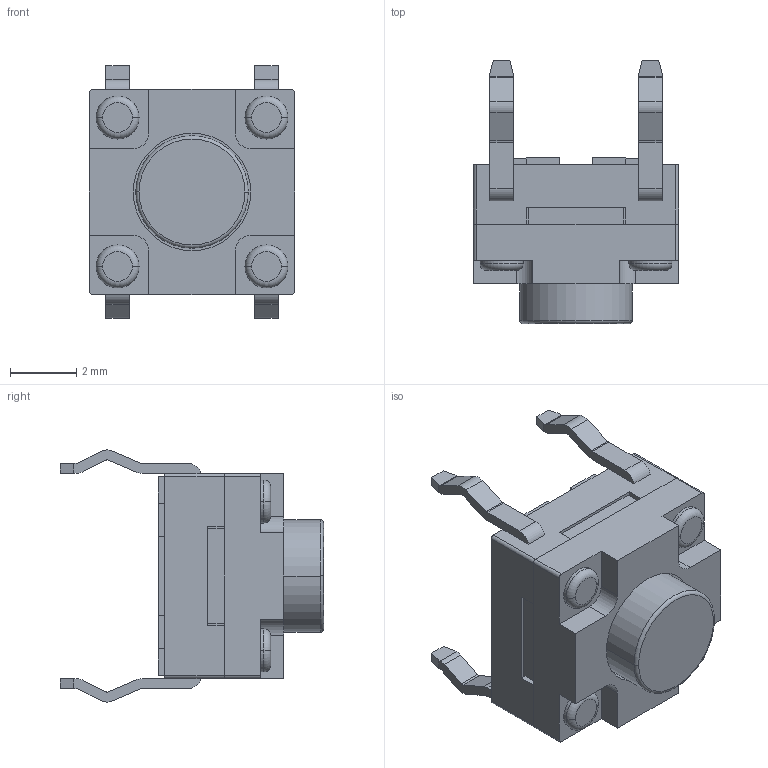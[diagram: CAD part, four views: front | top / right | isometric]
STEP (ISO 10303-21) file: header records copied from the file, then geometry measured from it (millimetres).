
FILE_DESCRIPTION((''),'2;1');
FILE_NAME('JQB6060F-B0501-01EGK-101_ASM','2026-05-26T10:53:04',('Admin'),(''),'CREO PARAMETRIC BY PTC INC, 2019224','CREO PARAMETRIC BY PTC INC, 2019224','');
FILE_SCHEMA(('AUTOMOTIVE_DESIGN { 1 0 10303 214 1 1 1 1 }'));
Length unit declared in the file: millimetre
Products named in the file (3): JQB6060F-B0501-01EGK-101_01; JQB6060F-B0501-01EGK-101_02; JQB6060F-B0501-01EGK-101_ASM
Assembly tree (2 placements, depth 2):
  JQB6060F-B0501-01EGK-101_ASM
    JQB6060F-B0501-01EGK-101_01
    JQB6060F-B0501-01EGK-101_02
Bounding box: 6.2 x 7.95 x 7.62 mm (x, y, z)
Volume: 147 mm3; surface area: 351 mm2
Topology: 2 solids, 2 shells, 225 faces, 610 edges, 414 vertices
Faces by surface type: plane 147, cylinder 68, torus 10
Entity records: 9974 total; most frequent: CARTESIAN_POINT 1247, DIRECTION 1238, ORIENTED_EDGE 1200, PRESENTATION_STYLE_ASSIGNMENT 695, STYLED_ITEM 615, CURVE_STYLE 613, EDGE_CURVE 600, VECTOR 454
